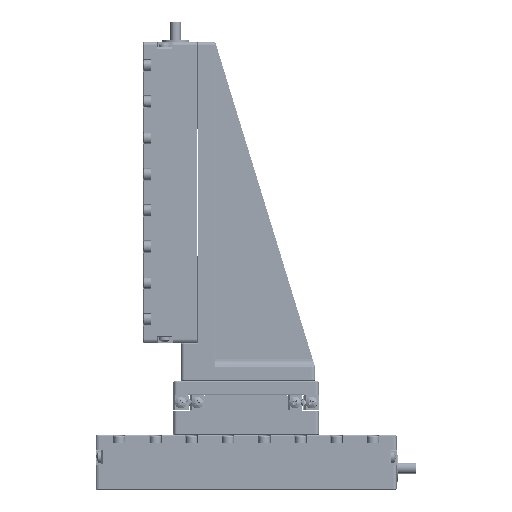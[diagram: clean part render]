
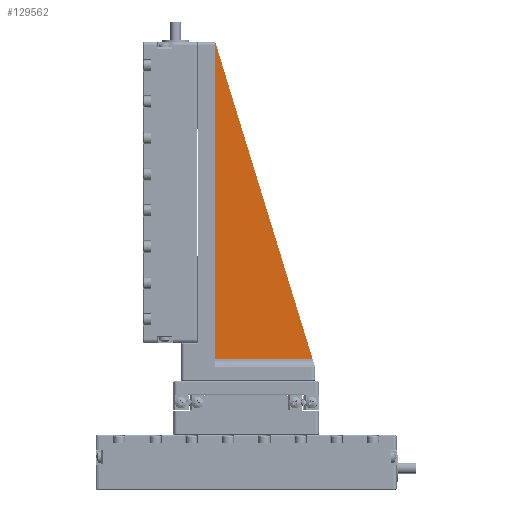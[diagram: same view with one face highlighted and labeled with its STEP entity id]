
A CAD part, top view. The second image highlights one B-rep face of the part: STEP entity #129562.
In plain terms, the highlighted planar face has unit normal (0, 0, 1).
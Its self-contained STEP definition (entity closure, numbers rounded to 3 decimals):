
#5699 = CARTESIAN_POINT ( 'NONE',  ( -11.169, 105.017, 91.713 ) ) ;
#12695 = CARTESIAN_POINT ( 'NONE',  ( 16.331, 15.517, 91.713 ) ) ;
#15832 = DIRECTION ( 'NONE',  ( 0., 0., -1. ) ) ;
#16239 = DIRECTION ( 'NONE',  ( 0.707, -0.707, 0. ) ) ;
#18819 = ORIENTED_EDGE ( 'NONE', *, *, #127176, .T. ) ;
#36096 = CARTESIAN_POINT ( 'NONE',  ( -2.169, 11.517, 91.713 ) ) ;
#37844 = DIRECTION ( 'NONE',  ( 0.294, -0.956, 0. ) ) ;
#47552 = CARTESIAN_POINT ( 'NONE',  ( -11.169, 17.517, 91.713 ) ) ;
#48059 = EDGE_CURVE ( 'NONE', #125370, #147095, #180567, .T. ) ;
#60353 = EDGE_CURVE ( 'NONE', #242255, #147095, #66445, .T. ) ;
#66445 = LINE ( 'NONE', #265443, #175182 ) ;
#68259 = CARTESIAN_POINT ( 'NONE',  ( -11.169, 104.817, 91.713 ) ) ;
#71093 = EDGE_CURVE ( 'NONE', #72674, #125370, #139775, .T. ) ;
#72674 = VERTEX_POINT ( 'NONE', #148551 ) ;
#81504 = AXIS2_PLACEMENT_3D ( 'NONE', #36096, #15832, #84371 ) ;
#84371 = DIRECTION ( 'NONE',  ( -1., 0., 0. ) ) ;
#94404 = EDGE_CURVE ( 'NONE', #242255, #96922, #281954, .T. ) ;
#96922 = VERTEX_POINT ( 'NONE', #68259 ) ;
#100615 = DIRECTION ( 'NONE',  ( 1., 0., 0. ) ) ;
#103266 = ORIENTED_EDGE ( 'NONE', *, *, #71093, .F. ) ;
#113223 = FACE_OUTER_BOUND ( 'NONE', #167500, .T. ) ;
#125370 = VERTEX_POINT ( 'NONE', #279634 ) ;
#127176 = EDGE_CURVE ( 'NONE', #72674, #96922, #172982, .T. ) ;
#129562 = ADVANCED_FACE ( 'NONE', ( #113223 ), #221004, .F. ) ;
#129861 = ORIENTED_EDGE ( 'NONE', *, *, #60353, .T. ) ;
#139775 = LINE ( 'NONE', #5699, #172397 ) ;
#147095 = VERTEX_POINT ( 'NONE', #265674 ) ;
#147968 = VECTOR ( 'NONE', #37844, 1000. ) ;
#148551 = CARTESIAN_POINT ( 'NONE',  ( -11.369, 105.017, 91.713 ) ) ;
#155065 = CARTESIAN_POINT ( 'NONE',  ( -11.169, 105.017, 91.713 ) ) ;
#167500 = EDGE_LOOP ( 'NONE', ( #231549, #129861, #173126, #103266, #18819 ) ) ;
#172397 = VECTOR ( 'NONE', #100615, 1000. ) ;
#172982 = LINE ( 'NONE', #221422, #223319 ) ;
#173126 = ORIENTED_EDGE ( 'NONE', *, *, #48059, .F. ) ;
#175182 = VECTOR ( 'NONE', #243183, 1000. ) ;
#180567 = LINE ( 'NONE', #12695, #147968 ) ;
#204608 = DIRECTION ( 'NONE',  ( 0., 1., 0. ) ) ;
#221004 = PLANE ( 'NONE',  #81504 ) ;
#221422 = CARTESIAN_POINT ( 'NONE',  ( 39.981, 53.667, 91.713 ) ) ;
#223319 = VECTOR ( 'NONE', #16239, 1000. ) ;
#231549 = ORIENTED_EDGE ( 'NONE', *, *, #94404, .F. ) ;
#242255 = VERTEX_POINT ( 'NONE', #47552 ) ;
#243183 = DIRECTION ( 'NONE',  ( 1., 0., 0. ) ) ;
#265443 = CARTESIAN_POINT ( 'NONE',  ( 16.331, 17.517, 91.713 ) ) ;
#265674 = CARTESIAN_POINT ( 'NONE',  ( 15.717, 17.517, 91.713 ) ) ;
#274626 = VECTOR ( 'NONE', #204608, 1000. ) ;
#279634 = CARTESIAN_POINT ( 'NONE',  ( -11.169, 105.017, 91.713 ) ) ;
#281954 = LINE ( 'NONE', #155065, #274626 ) ;
